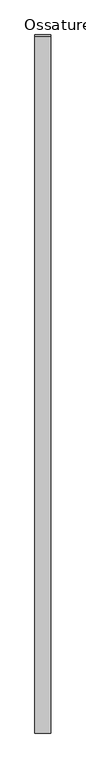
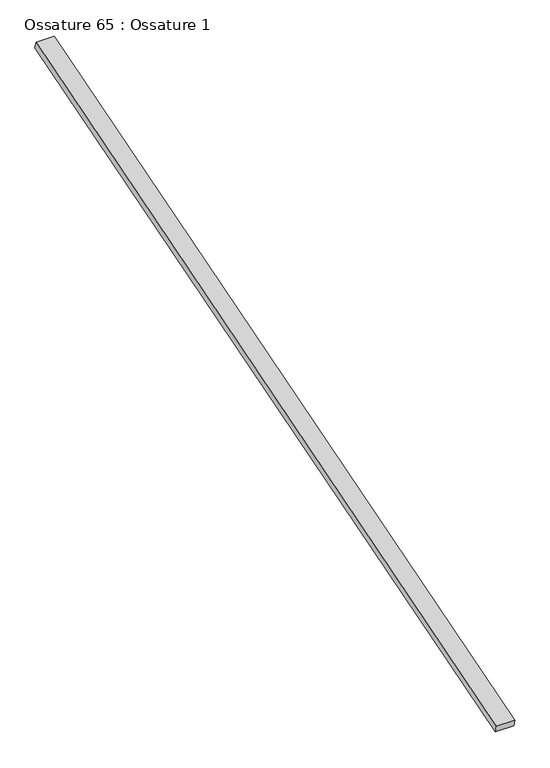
"""IFC4 building model written with IfcOpenShell, lengths in millimetres: beam geometry, Ossature 65 : Ossature 1."""

from ifc_helpers import new_model, si_unit, frame, origin, place, context, project, spatial, polyline, outline, extrude, source, transform, mapped, element, save


def ossature_65_ossature_1_8d0b69d1(model_context):
    return source(origin(), model_context, "Body", "SweptSolid", [
        extrude(outline(polyline([(0.0, 0.0), (0.0, -4543.0299679), (-100.0, -4543.0299679), (-100.0, 0.0), (0.0, 0.0)])), frame((15772.6466393, -833.3913565, 8153.6336115), z_axis=(0.0, -0.28734788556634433, 0.9578262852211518), x_axis=(-1.0, 0.0, 0.0)), (0.0, 0.0, 1.0), 40.0),
    ])


if __name__ == "__main__":
    model = new_model("IFC4")
    model_context = context("Model", 3, world=origin())
    ifc_project = project(units=[si_unit("LENGTHUNIT", "METRE", prefix="MILLI")], contexts=[model_context])
    site = spatial("IfcSite", under=ifc_project)
    building = spatial("IfcBuilding", under=site)
    placement = place(None, origin())
    ossature_65_ossature_1_shape = ossature_65_ossature_1_8d0b69d1(model_context)
    element("IfcBeam", 1, ObjectType="Ossature 65 : Ossature 1", at=placement, inside=building, context=model_context, shape_type="MappedRepresentation", body=[
        mapped(ossature_65_ossature_1_shape, transform((0.0, 0.0, 0.0), x_axis=(1.0, 0.0, 0.0), y_axis=(0.0, 1.0, 0.0), z_axis=(0.0, 0.0, 1.0))),
    ])
    save(model, "model.ifc")
